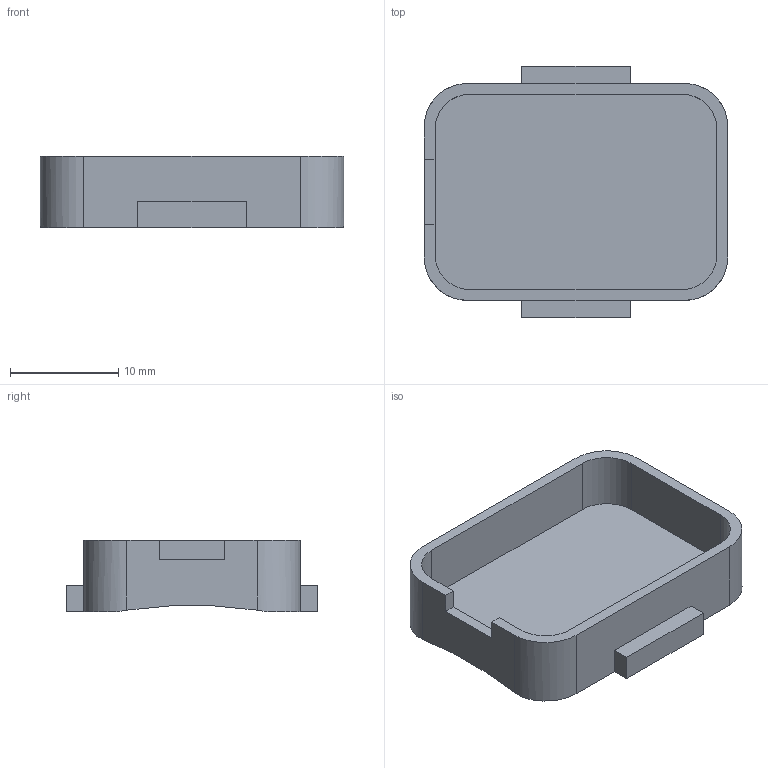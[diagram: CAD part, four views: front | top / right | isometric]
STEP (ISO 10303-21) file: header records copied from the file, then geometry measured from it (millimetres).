
FILE_DESCRIPTION(('Open CASCADE Model'),'2;1');
FILE_NAME('Open CASCADE Shape Model','2026-10-04T21:33:04',('Author'),( 'Open CASCADE'),'Open CASCADE STEP processor 7.9','Open CASCADE 7.9' ,'Unknown');
FILE_SCHEMA(('AUTOMOTIVE_DESIGN { 1 0 10303 214 1 1 1 1 }'));
Length unit declared in the file: millimetre
Products named in the file (1): Open CASCADE STEP translator 7.9 5
Bounding box: 28 x 23.2 x 6.6 mm (x, y, z)
Volume: 1128.6 mm3; surface area: 2162.1 mm2
Topology: 1 solids, 1 shells, 32 faces, 90 edges, 60 vertices
Faces by surface type: plane 23, cylinder 9
Entity records: 2230 total; most frequent: CARTESIAN_POINT 513, DIRECTION 292, ORIENTED_EDGE 180, LINE 180, VECTOR 180, PCURVE 180, DEFINITIONAL_REPRESENTATION 180, EDGE_CURVE 90
